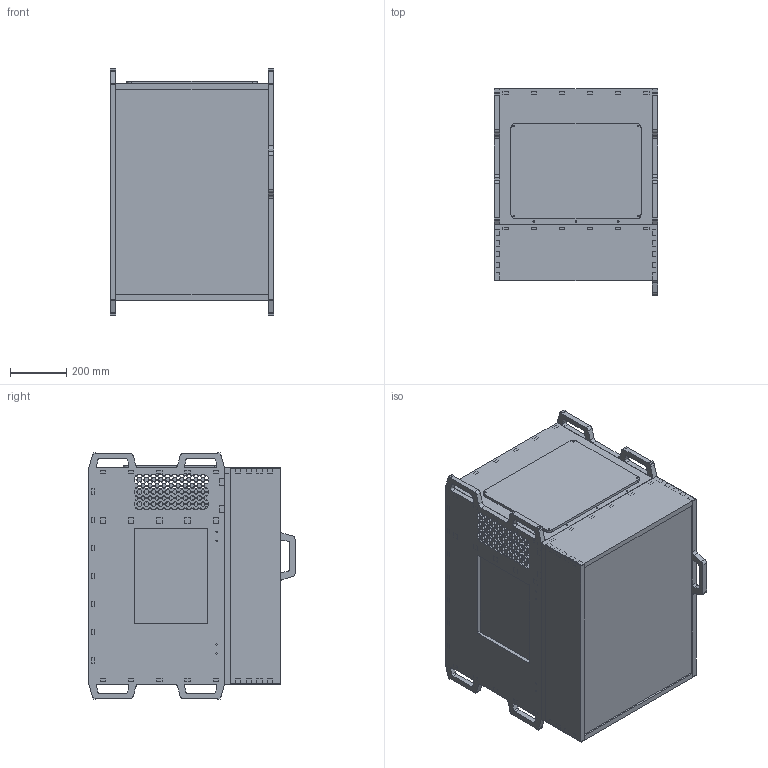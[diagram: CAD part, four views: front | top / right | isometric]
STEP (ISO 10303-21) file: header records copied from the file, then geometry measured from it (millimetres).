
FILE_DESCRIPTION(/* description */ (''),/* implementation_level */ '2;1');
FILE_NAME(/* name */ 'HA7A24~1',/* time_stamp */ '2017-11-06T12:18:45+01:00',/* author */ (''),/* organization */ (''),/* preprocessor_version */ 'ST-DEVELOPER v15',/* originating_system */ '',/* authorisation */ '');
FILE_SCHEMA (('AUTOMOTIVE_DESIGN'));
Products named in the file (1): Document
Bounding box: 580 x 732 x 877 mm (x, y, z)
Volume: 60816780.6 mm3; surface area: 9615738.5 mm2
Topology: 59 solids, 59 shells, 3630 faces, 10279 edges, 6848 vertices
Faces by surface type: bspline 2107, plane 1523
Entity records: 201201 total; most frequent: CARTESIAN_POINT 141990, ORIENTED_EDGE 20552, EDGE_CURVE 10276, VERTEX_POINT 6847, EDGE_LOOP 4423, B_SPLINE_CURVE_WITH_KNOTS 4321, ADVANCED_FACE 3630, FACE_OUTER_BOUND 3630
